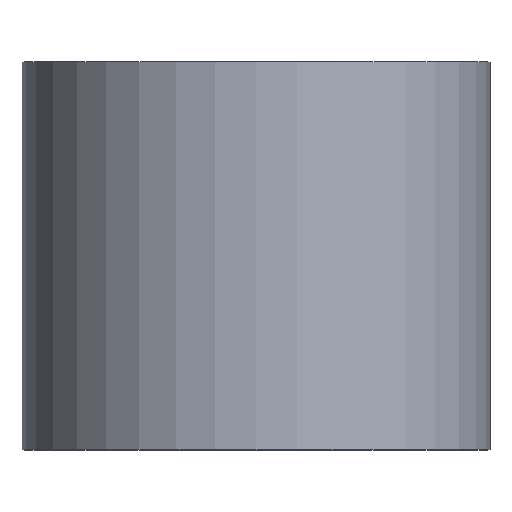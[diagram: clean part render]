
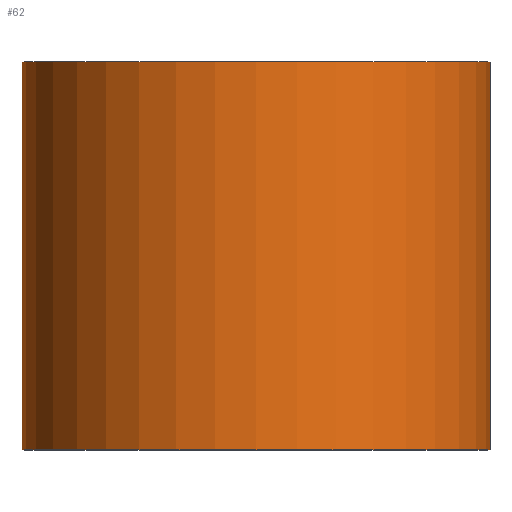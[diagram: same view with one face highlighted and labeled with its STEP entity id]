
A CAD part, top view. The second image highlights one B-rep face of the part: STEP entity #62.
In plain terms, the highlighted cylindrical face has radius 9.5 mm (diameter 19 mm), a full revolution.
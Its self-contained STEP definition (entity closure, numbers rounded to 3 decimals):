
#20=FACE_OUTER_BOUND('',#24,.T.);
#24=EDGE_LOOP('',(#51,#52,#53,#54));
#30=LINE('',#118,#32);
#32=VECTOR('',#100,9.5);
#35=CIRCLE('',#83,9.5);
#36=CIRCLE('',#84,9.5);
#39=VERTEX_POINT('',#115);
#40=VERTEX_POINT('',#117);
#44=EDGE_CURVE('',#39,#39,#35,.T.);
#45=EDGE_CURVE('',#39,#40,#30,.T.);
#46=EDGE_CURVE('',#40,#40,#36,.T.);
#51=ORIENTED_EDGE('',*,*,#44,.F.);
#52=ORIENTED_EDGE('',*,*,#45,.T.);
#53=ORIENTED_EDGE('',*,*,#46,.T.);
#54=ORIENTED_EDGE('',*,*,#45,.F.);
#60=CYLINDRICAL_SURFACE('',#82,9.5);
#62=ADVANCED_FACE('',(#20),#60,.T.);
#82=AXIS2_PLACEMENT_3D('',#114,#96,#97);
#83=AXIS2_PLACEMENT_3D('',#116,#98,#99);
#84=AXIS2_PLACEMENT_3D('',#119,#101,#102);
#96=DIRECTION('center_axis',(0.,1.,0.));
#97=DIRECTION('ref_axis',(1.,0.,0.));
#98=DIRECTION('center_axis',(0.,1.,0.));
#99=DIRECTION('ref_axis',(1.,0.,0.));
#100=DIRECTION('',(0.,-1.,0.));
#101=DIRECTION('center_axis',(0.,1.,0.));
#102=DIRECTION('ref_axis',(1.,0.,0.));
#114=CARTESIAN_POINT('Origin',(0.,0.,0.));
#115=CARTESIAN_POINT('',(-9.5,15.75,0.));
#116=CARTESIAN_POINT('Origin',(0.,15.75,0.));
#117=CARTESIAN_POINT('',(-9.5,0.,0.));
#118=CARTESIAN_POINT('',(-9.5,0.,0.));
#119=CARTESIAN_POINT('Origin',(0.,0.,0.));
